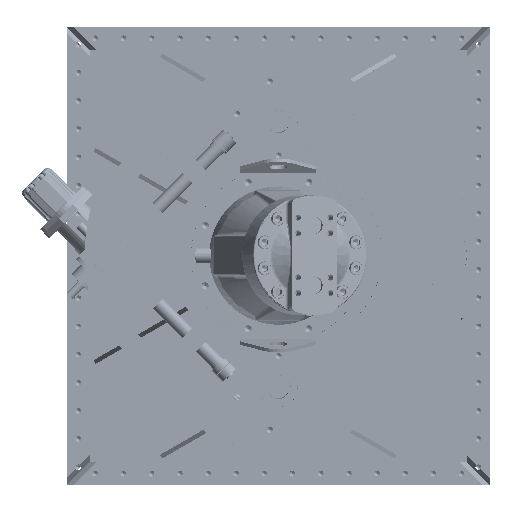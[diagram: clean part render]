
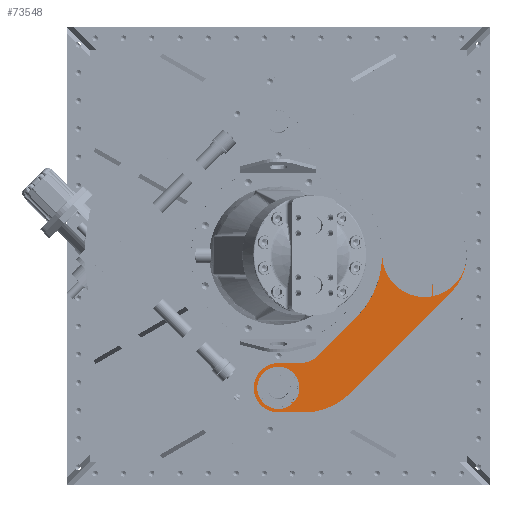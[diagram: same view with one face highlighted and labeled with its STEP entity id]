
A CAD part, top view. The second image highlights one B-rep face of the part: STEP entity #73548.
In plain terms, the highlighted planar face has unit normal (0, 0, 1).
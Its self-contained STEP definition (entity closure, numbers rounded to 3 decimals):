
#3646=FACE_BOUND('',#10505,.T.);
#4588=PLANE('',#77909);
#6243=FACE_OUTER_BOUND('',#10504,.T.);
#10504=EDGE_LOOP('',(#46855,#46856,#46857,#46858,#46859,#46860,#46861,#46862,
#46863,#46864,#46865,#46866,#46867,#46868));
#10505=EDGE_LOOP('',(#46869,#46870));
#15600=CIRCLE('',#77779,52.633);
#15601=CIRCLE('',#77781,52.633);
#15603=CIRCLE('',#77785,120.);
#15634=CIRCLE('',#77832,120.);
#15678=CIRCLE('',#77910,87.5);
#15679=CIRCLE('',#77911,251.421);
#15680=CIRCLE('',#77912,75.);
#15681=CIRCLE('',#77913,70.);
#15682=CIRCLE('',#77914,187.);
#15683=CIRCLE('',#77915,150.);
#19584=LINE('',#105296,#24133);
#19603=LINE('',#105394,#24152);
#19640=LINE('',#105587,#24189);
#19641=LINE('',#105591,#24190);
#19642=LINE('',#105595,#24191);
#19643=LINE('',#105599,#24192);
#24133=VECTOR('',#85479,10.);
#24152=VECTOR('',#85586,10.);
#24189=VECTOR('',#85791,10.);
#24190=VECTOR('',#85794,10.);
#24191=VECTOR('',#85797,10.);
#24192=VECTOR('',#85800,10.);
#28681=VERTEX_POINT('',#105248);
#28683=VERTEX_POINT('',#105260);
#28690=VERTEX_POINT('',#105293);
#28691=VERTEX_POINT('',#105295);
#28693=VERTEX_POINT('',#105301);
#28720=VERTEX_POINT('',#105379);
#28726=VERTEX_POINT('',#105392);
#28730=VERTEX_POINT('',#105405);
#28785=VERTEX_POINT('',#105584);
#28786=VERTEX_POINT('',#105586);
#28787=VERTEX_POINT('',#105588);
#28788=VERTEX_POINT('',#105590);
#28789=VERTEX_POINT('',#105592);
#28790=VERTEX_POINT('',#105594);
#28791=VERTEX_POINT('',#105596);
#28792=VERTEX_POINT('',#105598);
#35829=EDGE_CURVE('',#28683,#28681,#15600,.T.);
#35830=EDGE_CURVE('',#28681,#28683,#15601,.T.);
#35834=EDGE_CURVE('',#28691,#28690,#19584,.T.);
#35837=EDGE_CURVE('',#28693,#28691,#15603,.T.);
#35882=EDGE_CURVE('',#28720,#28726,#19603,.T.);
#35889=EDGE_CURVE('',#28726,#28730,#15634,.T.);
#35969=EDGE_CURVE('',#28690,#28720,#15678,.T.);
#35970=EDGE_CURVE('',#28730,#28785,#15679,.T.);
#35971=EDGE_CURVE('',#28785,#28786,#19640,.T.);
#35972=EDGE_CURVE('',#28787,#28786,#15680,.T.);
#35973=EDGE_CURVE('',#28787,#28788,#19641,.T.);
#35974=EDGE_CURVE('',#28788,#28789,#15681,.T.);
#35975=EDGE_CURVE('',#28789,#28790,#19642,.T.);
#35976=EDGE_CURVE('',#28791,#28790,#15682,.T.);
#35977=EDGE_CURVE('',#28791,#28792,#19643,.T.);
#35978=EDGE_CURVE('',#28792,#28693,#15683,.T.);
#46855=ORIENTED_EDGE('',*,*,#35834,.T.);
#46856=ORIENTED_EDGE('',*,*,#35969,.T.);
#46857=ORIENTED_EDGE('',*,*,#35882,.T.);
#46858=ORIENTED_EDGE('',*,*,#35889,.T.);
#46859=ORIENTED_EDGE('',*,*,#35970,.T.);
#46860=ORIENTED_EDGE('',*,*,#35971,.T.);
#46861=ORIENTED_EDGE('',*,*,#35972,.F.);
#46862=ORIENTED_EDGE('',*,*,#35973,.T.);
#46863=ORIENTED_EDGE('',*,*,#35974,.T.);
#46864=ORIENTED_EDGE('',*,*,#35975,.T.);
#46865=ORIENTED_EDGE('',*,*,#35976,.F.);
#46866=ORIENTED_EDGE('',*,*,#35977,.T.);
#46867=ORIENTED_EDGE('',*,*,#35978,.T.);
#46868=ORIENTED_EDGE('',*,*,#35837,.T.);
#46869=ORIENTED_EDGE('',*,*,#35829,.T.);
#46870=ORIENTED_EDGE('',*,*,#35830,.T.);
#73548=ADVANCED_FACE('',(#6243,#3646),#4588,.T.);
#77779=AXIS2_PLACEMENT_3D('',#105285,#85467,#85468);
#77781=AXIS2_PLACEMENT_3D('',#105287,#85471,#85472);
#77785=AXIS2_PLACEMENT_3D('',#105302,#85484,#85485);
#77832=AXIS2_PLACEMENT_3D('',#105407,#85599,#85600);
#77909=AXIS2_PLACEMENT_3D('',#105582,#85785,#85786);
#77910=AXIS2_PLACEMENT_3D('',#105583,#85787,#85788);
#77911=AXIS2_PLACEMENT_3D('',#105585,#85789,#85790);
#77912=AXIS2_PLACEMENT_3D('',#105589,#85792,#85793);
#77913=AXIS2_PLACEMENT_3D('',#105593,#85795,#85796);
#77914=AXIS2_PLACEMENT_3D('',#105597,#85798,#85799);
#77915=AXIS2_PLACEMENT_3D('',#105600,#85801,#85802);
#85467=DIRECTION('center_axis',(0.,0.,
-1.));
#85468=DIRECTION('ref_axis',(0.,1.,0.));
#85471=DIRECTION('center_axis',(0.,0.,
-1.));
#85472=DIRECTION('ref_axis',(0.,1.,0.));
#85479=DIRECTION('',(0.,1.,0.));
#85484=DIRECTION('center_axis',(0.,0.,
-1.));
#85485=DIRECTION('ref_axis',(0.866,0.5,0.));
#85586=DIRECTION('',(0.,-1.,0.));
#85599=DIRECTION('center_axis',(0.,0.,
-1.));
#85600=DIRECTION('ref_axis',(0.866,0.5,0.));
#85785=DIRECTION('center_axis',(0.,0.,
1.));
#85786=DIRECTION('ref_axis',(0.,-1.,0.));
#85787=DIRECTION('center_axis',(0.,0.,
-1.));
#85788=DIRECTION('ref_axis',(0.,-1.,0.));
#85789=DIRECTION('center_axis',(0.,0.,
-1.));
#85790=DIRECTION('ref_axis',(-1.,0.,0.));
#85791=DIRECTION('',(-0.707,-0.707,0.));
#85792=DIRECTION('center_axis',(0.,0.,
1.));
#85793=DIRECTION('ref_axis',(0.383,-0.924,0.));
#85794=DIRECTION('',(-1.,0.,0.));
#85795=DIRECTION('center_axis',(0.,0.,
1.));
#85796=DIRECTION('ref_axis',(0.,1.,0.));
#85797=DIRECTION('',(1.,0.,0.));
#85798=DIRECTION('center_axis',(0.,0.,
-1.));
#85799=DIRECTION('ref_axis',(0.383,-0.924,0.));
#85800=DIRECTION('',(0.707,0.707,0.));
#85801=DIRECTION('center_axis',(0.,0.,
1.));
#85802=DIRECTION('ref_axis',(0.707,-0.707,0.));
#105248=CARTESIAN_POINT('',(36.99,-415.038,1914.588));
#105260=CARTESIAN_POINT('',(34.796,-417.085,1914.588));
#105285=CARTESIAN_POINT('Origin',(0.,-377.595,
1914.588));
#105287=CARTESIAN_POINT('Origin',(0.,-377.595,
1914.588));
#105293=CARTESIAN_POINT('',(439.,-84.144,1914.588));
#105295=CARTESIAN_POINT('',(439.,-117.576,1914.588));
#105296=CARTESIAN_POINT('',(439.,-223.82,1914.588));
#105301=CARTESIAN_POINT('',(535.,0.,1914.588));
#105302=CARTESIAN_POINT('Origin',(415.,0.,
1914.588));
#105379=CARTESIAN_POINT('',(436.,-84.943,1914.588));
#105392=CARTESIAN_POINT('',(436.,-118.148,1914.588));
#105394=CARTESIAN_POINT('',(436.,-108.349,1914.588));
#105405=CARTESIAN_POINT('',(295.,0.,1914.588));
#105407=CARTESIAN_POINT('Origin',(415.,0.,
1914.588));
#105582=CARTESIAN_POINT('Origin',(243.358,-228.823,1914.588));
#105583=CARTESIAN_POINT('Origin',(415.,0.,
1914.588));
#105584=CARTESIAN_POINT('',(221.36,-177.782,1914.588));
#105585=CARTESIAN_POINT('Origin',(43.579,0.,
1914.588));
#105586=CARTESIAN_POINT('',(113.514,-285.628,1914.588));
#105587=CARTESIAN_POINT('',(221.36,-177.782,1914.588));
#105588=CARTESIAN_POINT('',(60.481,-307.595,1914.588));
#105589=CARTESIAN_POINT('Origin',(60.481,-232.595,1914.588));
#105590=CARTESIAN_POINT('',(0.,-307.595,1914.588));
#105591=CARTESIAN_POINT('',(91.547,-307.595,1914.588));
#105592=CARTESIAN_POINT('',(0.,-447.595,1914.588));
#105593=CARTESIAN_POINT('Origin',(0.,-377.595,
1914.588));
#105594=CARTESIAN_POINT('',(72.079,-447.595,1914.588));
#105595=CARTESIAN_POINT('',(0.,-447.595,1914.588));
#105596=CARTESIAN_POINT('',(204.308,-392.824,1914.588));
#105597=CARTESIAN_POINT('Origin',(72.079,-260.595,1914.588));
#105598=CARTESIAN_POINT('',(491.066,-106.066,1914.588));
#105599=CARTESIAN_POINT('',(149.537,-447.595,1914.588));
#105600=CARTESIAN_POINT('Origin',(385.,0.,1914.588));
